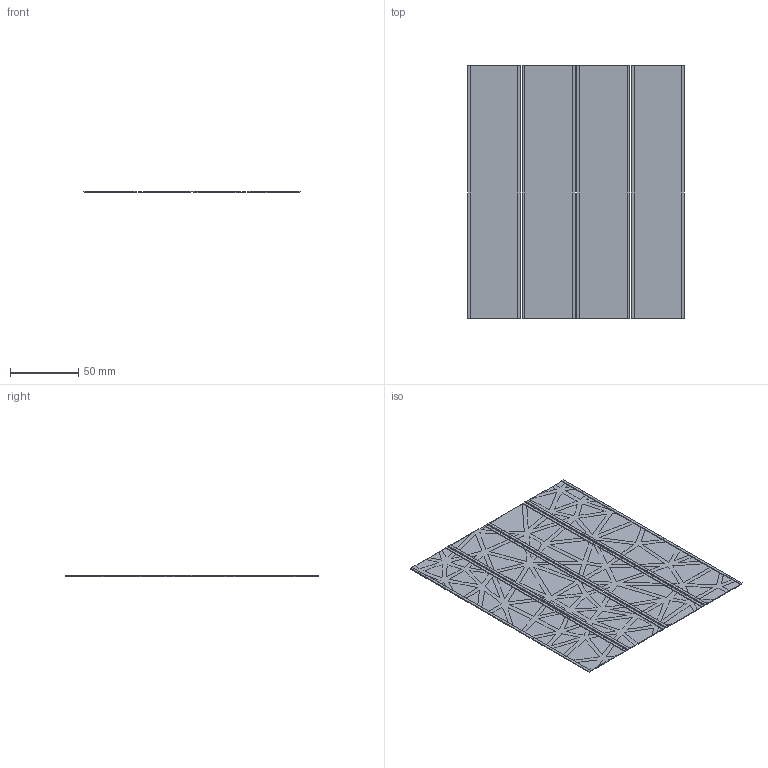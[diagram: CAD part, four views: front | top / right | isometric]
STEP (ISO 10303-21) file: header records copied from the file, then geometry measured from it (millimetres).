
FILE_DESCRIPTION (( 'STEP AP214' ), '1' );
FILE_NAME ('decor_plugs.STEP', '2026-02-18T12:23:20', ( '' ), ( '' ), 'SwSTEP 2.0', 'SolidWorks 2024', '' );
FILE_SCHEMA (( 'AUTOMOTIVE_DESIGN' ));
Length unit declared in the file: millimetre
Products named in the file (1): decor_plugs
Bounding box: 158.8 x 185.4 x 1 mm (x, y, z)
Volume: 15599.6 mm3; surface area: 98786.4 mm2
Topology: 143 solids, 143 shells, 1327 faces, 3048 edges, 2032 vertices
Faces by surface type: bspline 744, plane 583
Entity records: 42803 total; most frequent: CARTESIAN_POINT 17268, ORIENTED_EDGE 6096, EDGE_CURVE 3048, DIRECTION 2332, VERTEX_POINT 2032, B_SPLINE_CURVE_WITH_KNOTS 1884, EDGE_LOOP 1352, ADVANCED_FACE 1327
